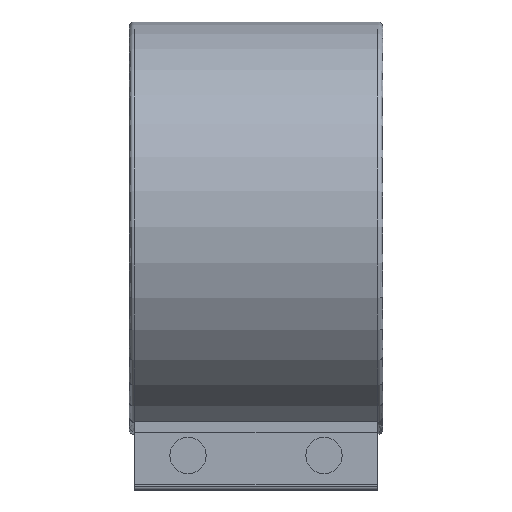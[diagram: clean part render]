
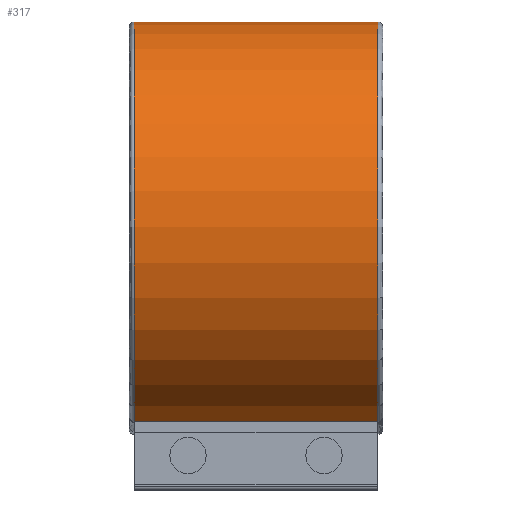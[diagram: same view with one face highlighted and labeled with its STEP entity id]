
A CAD part, top view. The second image highlights one B-rep face of the part: STEP entity #317.
In plain terms, the highlighted cylindrical face has radius 45.5 mm (diameter 91 mm), a partial arc.
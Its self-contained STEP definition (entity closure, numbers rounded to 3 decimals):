
#317 = ADVANCED_FACE( '', ( #688 ), #689, .T. );
#688 = FACE_OUTER_BOUND( '', #1077, .T. );
#689 = CYLINDRICAL_SURFACE( '', #1078, 45.5 );
#1077 = EDGE_LOOP( '', ( #1900, #1901, #1902, #1903 ) );
#1078 = AXIS2_PLACEMENT_3D( '', #1904, #1905, #1906 );
#1900 = ORIENTED_EDGE( '', *, *, #2401, .T. );
#1901 = ORIENTED_EDGE( '', *, *, #2365, .T. );
#1902 = ORIENTED_EDGE( '', *, *, #2321, .F. );
#1903 = ORIENTED_EDGE( '', *, *, #2253, .T. );
#1904 = CARTESIAN_POINT( '', ( 28., 0., 0. ) );
#1905 = DIRECTION( '', ( -1., 0., 0. ) );
#1906 = DIRECTION( '', ( 0., 0., -1. ) );
#2253 = EDGE_CURVE( '', #2729, #2568, #2730, .F. );
#2321 = EDGE_CURVE( '', #2729, #2505, #2827, .T. );
#2365 = EDGE_CURVE( '', #2879, #2505, #2880, .T. );
#2401 = EDGE_CURVE( '', #2568, #2879, #2923, .T. );
#2505 = VERTEX_POINT( '', #3058 );
#2568 = VERTEX_POINT( '', #3149 );
#2729 = VERTEX_POINT( '', #3397 );
#2730 = LINE( '', #3398, #3399 );
#2827 = CIRCLE( '', #3534, 45.5 );
#2879 = VERTEX_POINT( '', #3601 );
#2880 = LINE( '', #3602, #3603 );
#2923 = CIRCLE( '', #3667, 45.5 );
#3058 = CARTESIAN_POINT( '', ( 26.908, -42.687, 15.75 ) );
#3149 = CARTESIAN_POINT( '', ( -26.908, -42.687, -15.75 ) );
#3397 = CARTESIAN_POINT( '', ( 26.908, -42.687, -15.75 ) );
#3398 = CARTESIAN_POINT( '', ( 28., -42.687, -15.75 ) );
#3399 = VECTOR( '', #3893, 1000. );
#3534 = AXIS2_PLACEMENT_3D( '', #3971, #3972, #3973 );
#3601 = CARTESIAN_POINT( '', ( -26.908, -42.687, 15.75 ) );
#3602 = CARTESIAN_POINT( '', ( 28., -42.687, 15.75 ) );
#3603 = VECTOR( '', #4016, 1000. );
#3667 = AXIS2_PLACEMENT_3D( '', #4041, #4042, #4043 );
#3893 = DIRECTION( '', ( 1., 0., 0. ) );
#3971 = CARTESIAN_POINT( '', ( 26.908, 0., 0. ) );
#3972 = DIRECTION( '', ( 1., 0., 0. ) );
#3973 = DIRECTION( '', ( 0., 0., -1. ) );
#4016 = DIRECTION( '', ( 1., 0., 0. ) );
#4041 = CARTESIAN_POINT( '', ( -26.908, 0., 0. ) );
#4042 = DIRECTION( '', ( 1., 0., 0. ) );
#4043 = DIRECTION( '', ( 0., 0., -1. ) );
